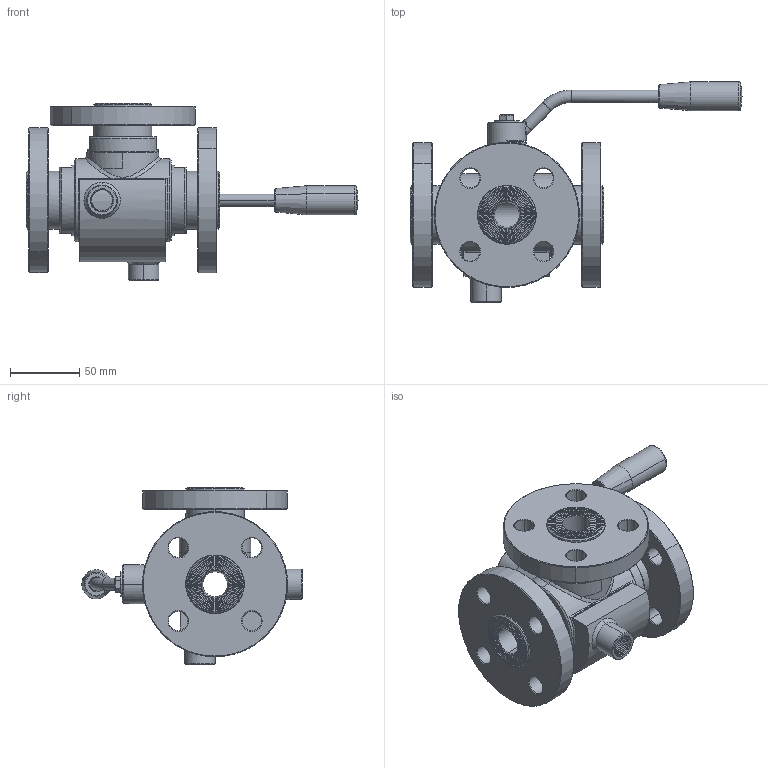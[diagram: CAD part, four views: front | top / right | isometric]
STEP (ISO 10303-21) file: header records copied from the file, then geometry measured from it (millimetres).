
FILE_DESCRIPTION((''),'2;1');
FILE_NAME('300150C62010_SW0001','2026-06-24T14:11:49',('tecnico2'),('CDM Tecnoconsulting'),'CREO PARAMETRIC BY PTC INC, 2024063','CREO PARAMETRIC BY PTC INC, 2024063','');
FILE_SCHEMA(('CONFIG_CONTROL_DESIGN','SHAPE_APPEARANCE_LAYERS_GROUPS'));
Products named in the file (1): 300150C62010_SW0001
Bounding box: 240 x 159.28 x 128 mm (x, y, z)
Volume: 655211 mm3; surface area: 163710.5 mm2
Topology: 1 solids, 1 shells, 1390 faces, 3677 edges, 2350 vertices
Faces by surface type: plane 558, cylinder 278, cone 217, extrusion 167, bspline 100, torus 66, sphere 4
Entity records: 80975 total; most frequent: CARTESIAN_POINT 34123, ORIENTED_EDGE 7314, DIRECTION 6019, PRESENTATION_STYLE_ASSIGNMENT 4086, STYLED_ITEM 3713, CURVE_STYLE 3712, EDGE_CURVE 3657, VERTEX_POINT 2350
